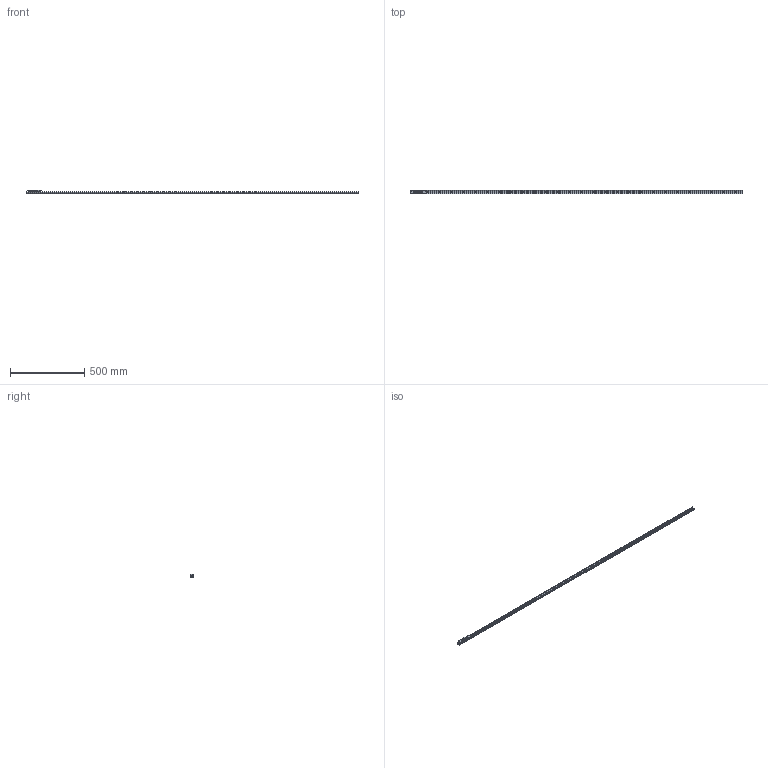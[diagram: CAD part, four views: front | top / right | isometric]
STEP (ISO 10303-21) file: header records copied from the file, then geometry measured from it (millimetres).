
FILE_DESCRIPTION( ( 'STEP AP214' ), '1' );
FILE_NAME( 'p:/temp/worker_24/temp/exporttempdir_84984_232_0xERr/format_0/TEN26-2240-CEN26-92.stp', '2020-05-08T18:52:48', ( 'License CC BY-ND 4.0' ), ( 'CADENAS' ), ' ', 'PARTsolutions', ' ' );
FILE_SCHEMA( ( 'AUTOMOTIVE_DESIGN { 1 0 10303 214 1 1 1 1 }' ) );
Length unit declared in the file: millimetre
Products named in the file (6): TEN26-2240-CEN26-92; _TEN 26-2240; _CEN26-92_1; _RLN26(11.2_M5); _RLA26(11.2_M5); _LAN-26
Assembly tree (8 placements, depth 2):
  TEN26-2240-CEN26-92
    _TEN 26-2240
    _CEN26-92_1
    _RLN26(11.2_M5)  x2
    _RLA26(11.2_M5)
    _LAN-26  x3
Bounding box: 2240 x 25.96 x 22 mm (x, y, z)
Volume: 244666.9 mm3; surface area: 207019.7 mm2
Topology: 8 solids, 8 shells, 261 faces, 585 edges, 367 vertices
Faces by surface type: plane 131, cylinder 97, cone 24, bspline 9
Full cylindrical faces by diameter (mm): 2.5 x2, 4.134 x5, 4.5 x3, 5 x6, 6.5 x28, 9.3 x3, 11.2 x6, 11.6 x6, 15.7 x6, 16.7 x6
Entity records: 6434 total; most frequent: CARTESIAN_POINT 925, DIRECTION 880, ORIENTED_EDGE 646, AXIS2_PLACEMENT_3D 376, EDGE_LOOP 344, EDGE_CURVE 323, VERTEX_POINT 253, FACE_OUTER_BOUND 240
